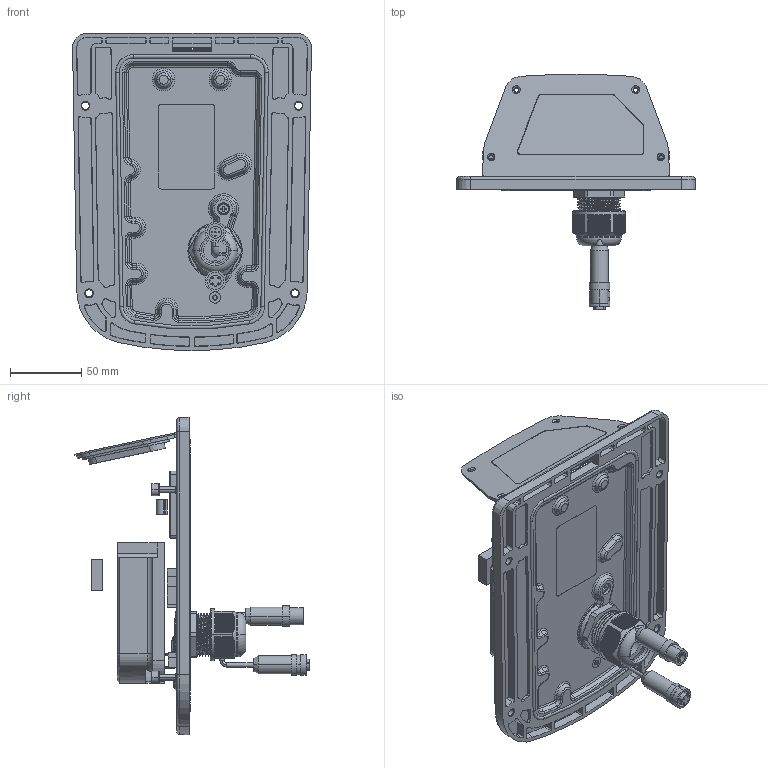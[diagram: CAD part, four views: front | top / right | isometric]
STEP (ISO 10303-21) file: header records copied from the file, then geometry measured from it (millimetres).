
FILE_DESCRIPTION((''),'2;1');
FILE_NAME('00_VPORT06EC_ASSMY_ASM','2017-05-05T',('ChrisYC_Huang'),('PTC'),'PRO/ENGINEER BY PARAMETRIC TECHNOLOGY CORPORATION, 2013230','PRO/ENGINEER BY PARAMETRIC TECHNOLOGY CORPORATION, 2013230','');
FILE_SCHEMA(('AUTOMOTIVE_DESIGN { 1 0 10303 214 1 1 1 1 }'));
Products named in the file (1): 00_VPORT06EC_ASSMY_ASM
Bounding box: 168.08 x 165.36 x 223.4 mm (x, y, z)
Volume: 290639.8 mm3; surface area: 196942.6 mm2
Topology: 10 solids, 18 shells, 2788 faces, 7600 edges, 4922 vertices
Faces by surface type: plane 1494, cone 532, cylinder 497, torus 177, bspline 84, extrusion 4
Entity records: 151599 total; most frequent: CARTESIAN_POINT 70965, ORIENTED_EDGE 15188, DIRECTION 14001, EDGE_CURVE 7594, AXIS2_PLACEMENT_3D 4963, VERTEX_POINT 4922, VECTOR 4075, LINE 4071
